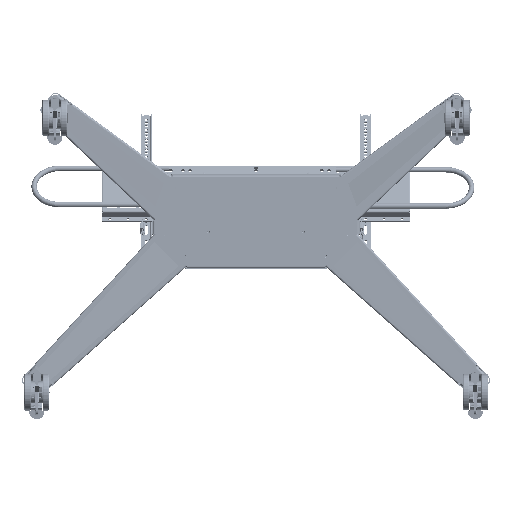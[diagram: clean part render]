
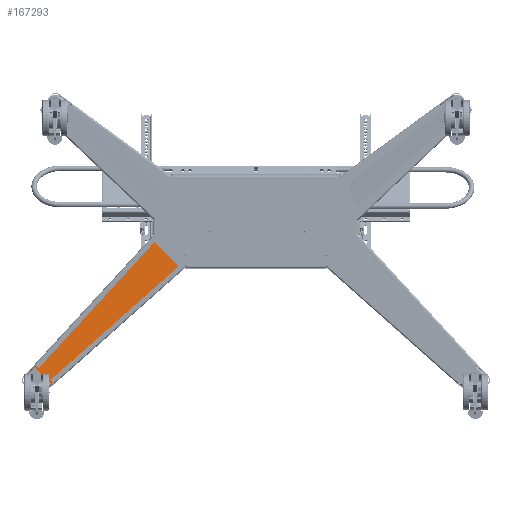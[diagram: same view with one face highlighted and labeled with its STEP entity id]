
A CAD part, left-side view. The second image highlights one B-rep face of the part: STEP entity #167293.
In plain terms, the highlighted planar face has unit normal (-0.999, -0.034, 0.033) as drawn and (0.034, -0.999, 0.033) by its records, which use the part's own axes.
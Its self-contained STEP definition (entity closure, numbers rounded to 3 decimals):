
#164926=CARTESIAN_POINT('',(-273.485,51.496,
-28.513));
#165004=CARTESIAN_POINT('',(-192.036,51.505,
-111.107));
#165027=CARTESIAN_POINT('',(-192.879,51.496,
-110.538));
#165330=DIRECTION('',(0.701,0.,-0.713));
#165331=VECTOR('',#165330,41.477);
#165332=CARTESIAN_POINT('',(-632.435,25.731,
-432.798));
#165333=LINE('',#165332,#165331);
#165399=DIRECTION('',(0.712,0.048,0.7));
#165400=VECTOR('',#165399,0.147);
#165401=CARTESIAN_POINT('',(-603.363,25.731,
-462.382));
#165402=LINE('',#165401,#165400);
#165408=DIRECTION('',(0.676,0.048,0.735));
#165409=VECTOR('',#165408,531.126);
#165410=CARTESIAN_POINT('',(-632.632,26.187,
-418.982));
#165411=LINE('',#165410,#165409);
#165412=CARTESIAN_POINT('',(-273.485,51.496,
-28.513));
#165413=CARTESIAN_POINT('',(-273.475,51.497,
-28.503));
#165414=CARTESIAN_POINT('',(-273.458,51.498,
-28.481));
#165415=CARTESIAN_POINT('',(-273.427,51.5,
-28.453));
#165416=CARTESIAN_POINT('',(-273.407,51.502,
-28.433));
#165417=CARTESIAN_POINT('',(-273.396,51.502,
-28.423));
#165419=CARTESIAN_POINT('',(-192.036,51.505,
-111.107));
#165420=CARTESIAN_POINT('',(-192.062,51.504,
-111.129));
#165421=CARTESIAN_POINT('',(-192.1,51.503,
-111.137));
#165422=CARTESIAN_POINT('',(-192.168,51.503,
-111.073));
#165423=CARTESIAN_POINT('',(-192.241,51.502,
-111.024));
#165424=CARTESIAN_POINT('',(-192.323,51.501,
-110.964));
#165425=CARTESIAN_POINT('',(-192.414,51.5,
-110.9));
#165426=CARTESIAN_POINT('',(-192.514,51.499,
-110.827));
#165427=CARTESIAN_POINT('',(-192.624,51.498,
-110.744));
#165428=CARTESIAN_POINT('',(-192.745,51.497,
-110.649));
#165429=CARTESIAN_POINT('',(-192.833,51.497,
-110.576));
#165430=CARTESIAN_POINT('',(-192.879,51.496,
-110.538));
#165432=DIRECTION('',(-0.747,-0.048,
-0.663));
#165433=VECTOR('',#165432,531.125);
#165434=CARTESIAN_POINT('',(-192.879,51.496,
-110.538));
#165435=LINE('',#165434,#165433);
#165436=DIRECTION('',(-0.664,0.002,0.748));
#165437=VECTOR('',#165436,0.103);
#165438=CARTESIAN_POINT('',(-589.555,26.187,
-462.818));
#165439=LINE('',#165438,#165437);
#165440=CARTESIAN_POINT('',(-589.623,26.187,
-462.741));
#165441=CARTESIAN_POINT('',(-590.456,26.136,
-463.43));
#165442=CARTESIAN_POINT('',(-592.138,26.042,
-464.516));
#165443=CARTESIAN_POINT('',(-594.536,25.937,
-465.207));
#165444=CARTESIAN_POINT('',(-597.446,25.834,
-465.334));
#165445=CARTESIAN_POINT('',(-600.679,25.755,
-464.379));
#165446=CARTESIAN_POINT('',(-602.413,25.739,
-463.108));
#165447=CARTESIAN_POINT('',(-603.259,25.738,
-462.279));
#165449=DIRECTION('',(0.712,0.048,0.7));
#165450=VECTOR('',#165449,0.147);
#165451=CARTESIAN_POINT('',(-632.435,25.731,
-432.798));
#165452=LINE('',#165451,#165450);
#165453=CARTESIAN_POINT('',(-632.33,25.738,
-432.695));
#165454=CARTESIAN_POINT('',(-633.081,25.74,
-431.879));
#165455=CARTESIAN_POINT('',(-634.272,25.755,
-430.211));
#165456=CARTESIAN_POINT('',(-635.099,25.811,
-427.698));
#165457=CARTESIAN_POINT('',(-635.286,25.904,
-424.732));
#165458=CARTESIAN_POINT('',(-634.438,26.038,
-421.593));
#165459=CARTESIAN_POINT('',(-633.304,26.134,
-419.886));
#165460=CARTESIAN_POINT('',(-632.554,26.187,
-419.052));
#165462=CARTESIAN_POINT('',(-632.554,26.187,
-419.052));
#165463=CARTESIAN_POINT('',(-632.58,26.187,
-419.029));
#165464=CARTESIAN_POINT('',(-632.607,26.187,
-419.006));
#165465=CARTESIAN_POINT('',(-632.632,26.187,
-418.982));
#165467=CARTESIAN_POINT('',(-192.036,51.505,
-111.107));
#165468=CARTESIAN_POINT('',(-195.249,51.504,
-107.88));
#165469=CARTESIAN_POINT('',(-201.653,51.504,
-101.4));
#165470=CARTESIAN_POINT('',(-211.217,51.504,
-91.642));
#165471=CARTESIAN_POINT('',(-217.621,51.503,
-85.158));
#165472=CARTESIAN_POINT('',(-220.826,51.502,
-81.917));
#165474=DIRECTION('',(-0.701,0.,0.713));
#165475=VECTOR('',#165474,75.002);
#165476=CARTESIAN_POINT('',(-220.826,51.502,
-81.917));
#165477=LINE('',#165476,#165475);
#166131=VERTEX_POINT('',#164926);
#166132=CARTESIAN_POINT('',(-632.632,26.187,
-418.982));
#166133=VERTEX_POINT('',#166132);
#166138=CARTESIAN_POINT('',(-273.397,51.502,
-28.423));
#166139=VERTEX_POINT('',#166138);
#166145=VERTEX_POINT('',#165004);
#166151=VERTEX_POINT('',#165027);
#166194=CARTESIAN_POINT('',(-589.555,26.187,
-462.818));
#166195=VERTEX_POINT('',#166194);
#166196=CARTESIAN_POINT('',(-589.623,26.187,
-462.741));
#166197=VERTEX_POINT('',#166196);
#166216=CARTESIAN_POINT('',(-632.435,25.731,
-432.798));
#166217=VERTEX_POINT('',#166216);
#166218=CARTESIAN_POINT('',(-603.363,25.731,
-462.382));
#166219=VERTEX_POINT('',#166218);
#166222=CARTESIAN_POINT('',(-632.33,25.738,
-432.695));
#166223=VERTEX_POINT('',#166222);
#166224=CARTESIAN_POINT('',(-603.259,25.738,
-462.279));
#166225=VERTEX_POINT('',#166224);
#166226=CARTESIAN_POINT('',(-220.826,51.502,
-81.917));
#166227=VERTEX_POINT('',#166226);
#166228=VERTEX_POINT('',#165460);
#167268=CARTESIAN_POINT('',(-285.641,51.503,
-15.928));
#167269=DIRECTION('',(0.034,-0.999,0.033));
#167270=DIRECTION('',(-0.712,-0.048,
-0.7));
#167271=AXIS2_PLACEMENT_3D('',#167268,#167269,#167270);
#167272=PLANE('',#167271);
#167273=ORIENTED_EDGE('',*,*,#166542,.T.);
#167274=ORIENTED_EDGE('',*,*,#166602,.T.);
#167276=ORIENTED_EDGE('',*,*,#167275,.F.);
#167278=ORIENTED_EDGE('',*,*,#167277,.F.);
#167279=ORIENTED_EDGE('',*,*,#166715,.T.);
#167280=ORIENTED_EDGE('',*,*,#166925,.T.);
#167281=ORIENTED_EDGE('',*,*,#166943,.T.);
#167283=ORIENTED_EDGE('',*,*,#167282,.T.);
#167284=ORIENTED_EDGE('',*,*,#167259,.F.);
#167285=ORIENTED_EDGE('',*,*,#167138,.F.);
#167286=ORIENTED_EDGE('',*,*,#167157,.T.);
#167288=ORIENTED_EDGE('',*,*,#167287,.T.);
#167290=ORIENTED_EDGE('',*,*,#167289,.T.);
#167291=EDGE_LOOP('',(#167273,#167274,#167276,#167278,#167279,#167280,#167281,
#167283,#167284,#167285,#167286,#167288,#167290));
#167292=FACE_OUTER_BOUND('',#167291,.F.);
#167293=ADVANCED_FACE('',(#167292),#167272,.T.);
#165418=B_SPLINE_CURVE_WITH_KNOTS('',3,(#165412,#165413,#165414,#165415,#165416,
#165417),.UNSPECIFIED.,.F.,.F.,(4,1,1,4),(0.,0.333,
0.667,1.),.UNSPECIFIED.);
#165431=B_SPLINE_CURVE_WITH_KNOTS('',3,(#165419,#165420,#165421,#165422,#165423,
#165424,#165425,#165426,#165427,#165428,#165429,#165430),.UNSPECIFIED.,.F.,.F.,(
4,1,1,1,1,1,1,1,1,4),(0.,0.111,0.222,
0.333,0.444,0.556,0.667,
0.778,0.889,1.),.UNSPECIFIED.);
#165448=B_SPLINE_CURVE_WITH_KNOTS('',3,(#165440,#165441,#165442,#165443,#165444,
#165445,#165446,#165447),.UNSPECIFIED.,.F.,.F.,(4,1,1,1,1,4),(0.,
0.198,0.399,0.6,0.8,1.),
.UNSPECIFIED.);
#165461=B_SPLINE_CURVE_WITH_KNOTS('',3,(#165453,#165454,#165455,#165456,#165457,
#165458,#165459,#165460),.UNSPECIFIED.,.F.,.F.,(4,1,1,1,1,4),(0.,
0.198,0.399,0.6,0.8,1.),
.UNSPECIFIED.);
#165466=B_SPLINE_CURVE_WITH_KNOTS('',3,(#165462,#165463,#165464,#165465),
.UNSPECIFIED.,.F.,.F.,(4,4),(0.,1.),.UNSPECIFIED.);
#165473=B_SPLINE_CURVE_WITH_KNOTS('',3,(#165467,#165468,#165469,#165470,#165471,
#165472),.UNSPECIFIED.,.F.,.F.,(4,1,1,4),(0.,0.333,
0.667,1.),.UNSPECIFIED.);
#166542=EDGE_CURVE('',#166133,#166131,#165411,.T.);
#166602=EDGE_CURVE('',#166131,#166139,#165418,.T.);
#166715=EDGE_CURVE('',#166145,#166151,#165431,.T.);
#166925=EDGE_CURVE('',#166151,#166195,#165435,.T.);
#166943=EDGE_CURVE('',#166195,#166197,#165439,.T.);
#167138=EDGE_CURVE('',#166217,#166219,#165333,.T.);
#167157=EDGE_CURVE('',#166217,#166223,#165452,.T.);
#167259=EDGE_CURVE('',#166219,#166225,#165402,.T.);
#167275=EDGE_CURVE('',#166227,#166139,#165477,.T.);
#167277=EDGE_CURVE('',#166145,#166227,#165473,.T.);
#167282=EDGE_CURVE('',#166197,#166225,#165448,.T.);
#167287=EDGE_CURVE('',#166223,#166228,#165461,.T.);
#167289=EDGE_CURVE('',#166228,#166133,#165466,.T.);
